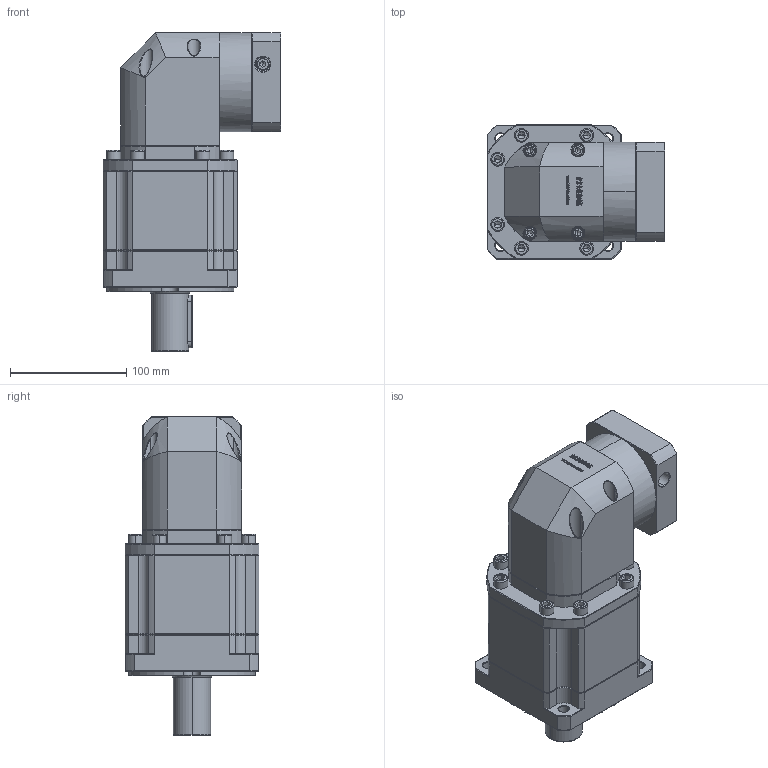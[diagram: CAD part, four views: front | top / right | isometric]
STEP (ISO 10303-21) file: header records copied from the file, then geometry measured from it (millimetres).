
FILE_DESCRIPTION (( 'STEP AP214' ), '1' );
FILE_NAME ('ZBR115A-D32-L3-14-73-69.5X69.5-M6.step', '2023-03-02T14:37:50', ( '' ), ( 'Microsoft' ), 'SwSTEP 2.0', 'SolidWorks 2016', '' );
FILE_SCHEMA (( 'AUTOMOTIVE_DESIGN' ));
Length unit declared in the file: millimetre
Products named in the file (1): ZBR115A-D32-L3-14-73-69.5X69.5-M6
Bounding box: 152.6 x 115 x 273.5 mm (x, y, z)
Volume: 2282018.4 mm3; surface area: 189796.4 mm2
Topology: 6 solids, 6 shells, 3196 faces, 8388 edges, 5343 vertices
Faces by surface type: plane 1701, bspline 633, cylinder 476, cone 372, torus 14
Entity records: 170927 total; most frequent: CARTESIAN_POINT 62160, ORIENTED_EDGE 16668, DIRECTION 12836, EDGE_CURVE 8334, VECTOR 5596, LINE 5596, VERTEX_POINT 5343, AXIS2_PLACEMENT_3D 3620
